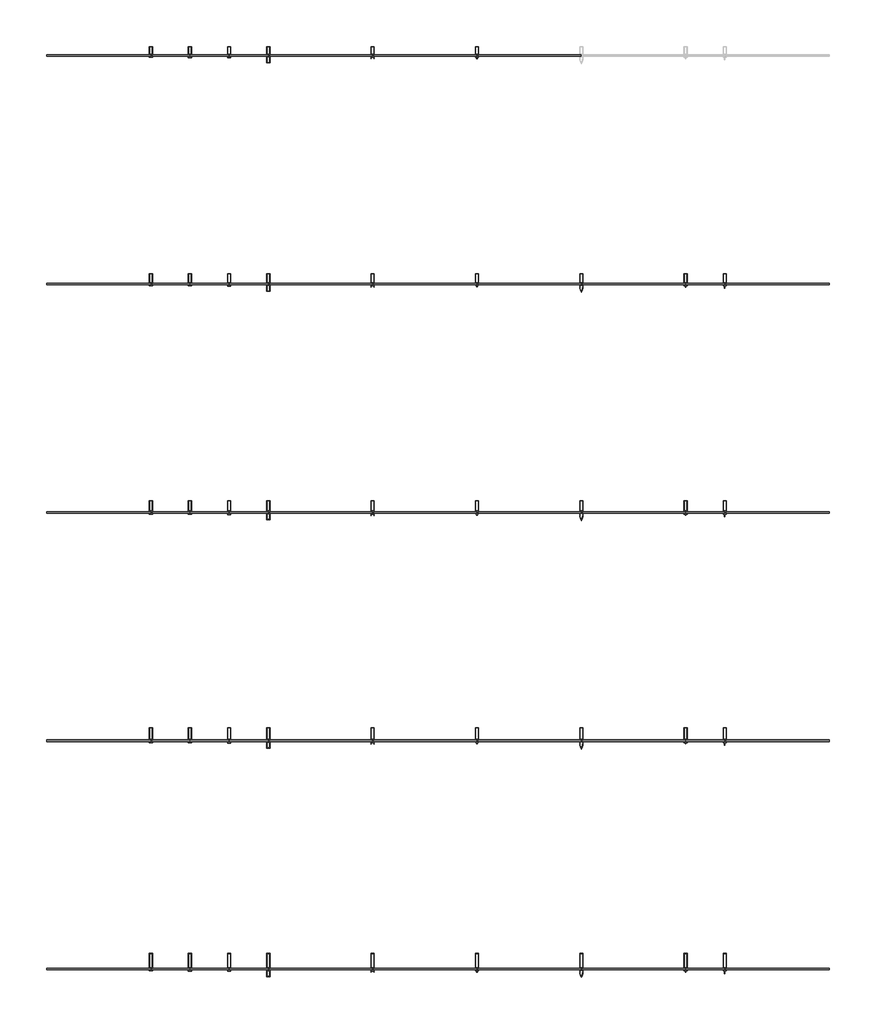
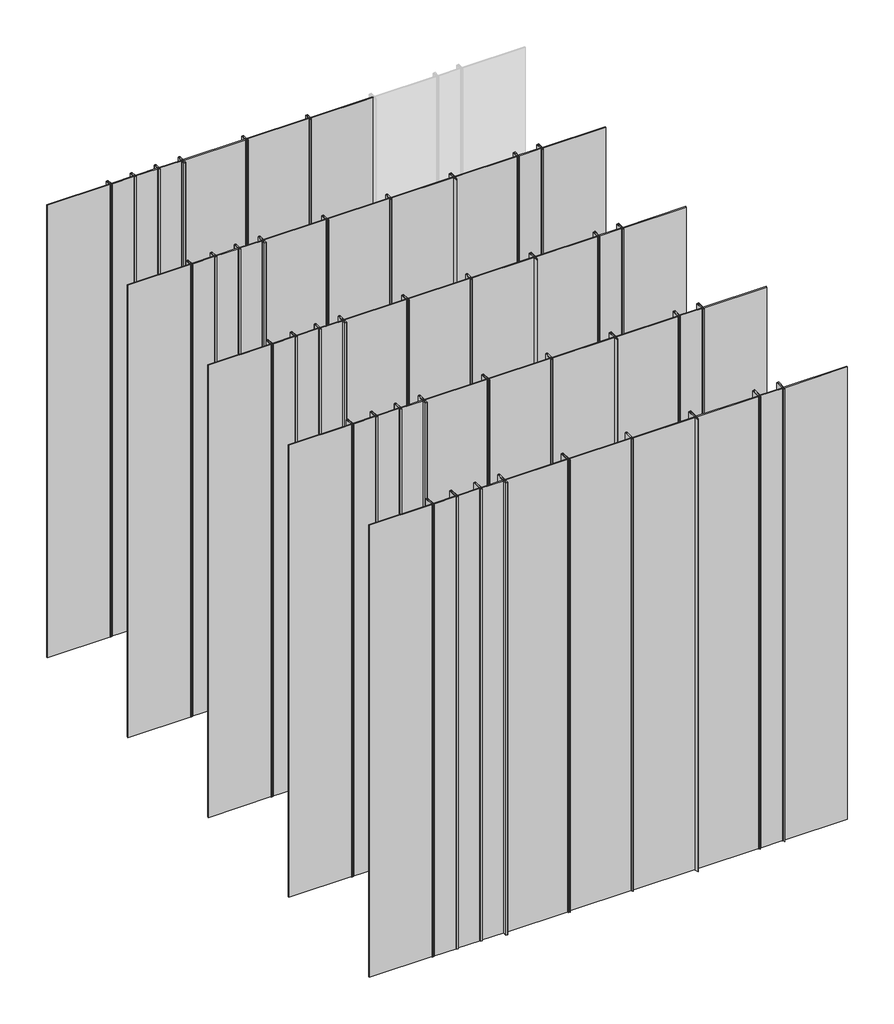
# One storey, part 1 of 3: 47 plates, 42 members.
"""IFC4 building model written with IfcOpenShell, lengths in millimetres."""

from ifc_helpers import new_model, si_unit, origin, place, context, project, spatial, transform, mapped, element, save
from components import rectangular_mullion_120c3908, rectangular_mullion_693bc9d2, rectangular_mullion_8fbd9535, rectangular_mullion_25a7c6fc, rectangular_mullion_629073e1, rectangular_mullion_d670cf64, rectangular_mullion_58ca4ded, rectangular_mullion_fb1c17d4, rectangular_mullion_f3bbb93a, rectangular_mullion_afd46f44, rectangular_mullion_7d98d56e, rectangular_mullion_0bbc5c10, rectangular_mullion_07f449a9, rectangular_mullion_7b71fafa, rectangular_mullion_cb093232, rectangular_mullion_c1439ce1, rectangular_mullion_d79525b9, rectangular_mullion_4c7a41ba, rectangular_mullion_d0dfcfd7, rectangular_mullion_525918dc, rectangular_mullion_4d24ccfb, rectangular_mullion_5bd67411, rectangular_mullion_9865d1ee, rectangular_mullion_e466530f, rectangular_mullion_0eb20de7, rectangular_mullion_bd02d50f, rectangular_mullion_65957ae0, rectangular_mullion_ba95baed, rectangular_mullion_c6a1e527, rectangular_mullion_80356d6c, rectangular_mullion_60d12d85, rectangular_mullion_952e1606, rectangular_mullion_2d673ba3, rectangular_mullion_68ce5020, rectangular_mullion_cac935a3, rectangular_mullion_5f609504, rectangular_mullion_1290e9c1, rectangular_mullion_a40413b4, rectangular_mullion_e9a00c45, rectangular_mullion_58120c59, rectangular_mullion_c298cf27, rectangular_mullion_6b586c06, system_panel_glazed_d93a0c65, system_panel_glazed_eeb16b76, system_panel_glazed_27cd61de, system_panel_glazed_01db162c

model = new_model("IFC4")

# Units and contexts
model_context = context("Model", 3, world=origin())
ifc_project = project(units=[si_unit("LENGTHUNIT", "METRE", prefix="MILLI")], contexts=[model_context])

# Site, building, storey
site = spatial("IfcSite", under=ifc_project)
building = spatial("IfcBuilding", under=site)
storey = spatial("IfcBuildingStorey", under=building, Name="REY 01 - Overview Mullions", Elevation=0.0)

# Members
placement = place(None, origin())
rectangular_mullion_shape = rectangular_mullion_120c3908(model_context)
element("IfcMember", 1, ObjectType="Rectangular Mullion : Reynaers_CW-50_Transom-Transom_125.5mm_Facecap-02A", at=placement, inside=storey, context=model_context, shape_type="MappedRepresentation", body=[
    mapped(rectangular_mullion_shape, transform((-14129.591144, -4600.3540011, 0.0), x_axis=(-1.0, 0.0, 0.0), y_axis=(0.0, 1.0, 0.0), z_axis=(0.0, 0.0, -1.0))),
])
rectangular_mullion_2_shape = rectangular_mullion_693bc9d2(model_context)
element("IfcMember", 2, ObjectType="Rectangular Mullion : Reynaers_CW-50_Transom-Transom_125.5mm_Facecap-02B", at=placement, inside=storey, context=model_context, shape_type="MappedRepresentation", body=[
    mapped(rectangular_mullion_2_shape, transform((-13529.591144, -4600.3540011, 0.0), x_axis=(-1.0, 0.0, 0.0), y_axis=(0.0, 1.0, 0.0), z_axis=(0.0, 0.0, -1.0))),
])
rectangular_mullion_3_shape = rectangular_mullion_8fbd9535(model_context)
element("IfcMember", 3, ObjectType="Rectangular Mullion : Reynaers_CW-50_Transom-Transom_125.5mm_Facecap-02C", at=placement, inside=storey, context=model_context, shape_type="MappedRepresentation", body=[
    mapped(rectangular_mullion_3_shape, transform((-12929.591144, -4600.3540011, 0.0), x_axis=(-1.0, 0.0, 0.0), y_axis=(0.0, 1.0, 0.0), z_axis=(0.0, 0.0, -1.0))),
])
rectangular_mullion_4_shape = rectangular_mullion_25a7c6fc(model_context)
element("IfcMember", 4, ObjectType="Rectangular Mullion : Reynaers_CW-50_Transom-Transom_125.5mm_Facecap-02D", at=placement, inside=storey, context=model_context, shape_type="MappedRepresentation", body=[
    mapped(rectangular_mullion_4_shape, transform((-12329.591144, -4600.3540011, 0.0), x_axis=(-1.0, 0.0, 0.0), y_axis=(0.0, 1.0, 0.0), z_axis=(0.0, 0.0, -1.0))),
])
rectangular_mullion_5_shape = rectangular_mullion_629073e1(model_context)
element("IfcMember", 5, ObjectType="Rectangular Mullion : Reynaers_CW-50_Transom-Transom_125.5mm_Facecap-03", at=placement, inside=storey, context=model_context, shape_type="MappedRepresentation", body=[
    mapped(rectangular_mullion_5_shape, transform((-10729.591144, -4600.3540011, 0.0), x_axis=(-1.0, 0.0, 0.0), y_axis=(0.0, 1.0, 0.0), z_axis=(0.0, 0.0, -1.0))),
])
rectangular_mullion_6_shape = rectangular_mullion_d670cf64(model_context)
element("IfcMember", 6, ObjectType="Rectangular Mullion : Reynaers_CW-50_Transom-Transom_Vertical_125.5mm_Facecap-04", at=placement, inside=storey, context=model_context, shape_type="MappedRepresentation", body=[
    mapped(rectangular_mullion_6_shape, transform((-9129.591144, -4600.3540011, 0.0), x_axis=(-1.0, 0.0, 0.0), y_axis=(0.0, 1.0, 0.0), z_axis=(0.0, 0.0, -1.0))),
])
rectangular_mullion_7_shape = rectangular_mullion_58ca4ded(model_context)
element("IfcMember", 7, ObjectType="Rectangular Mullion : Reynaers_CW-50_Transom-Transom_Vertical_146.5mm_Facecap-04", at=placement, inside=storey, context=model_context, shape_type="MappedRepresentation", body=[
    mapped(rectangular_mullion_7_shape, transform((-9129.591144, -8100.3540011, 0.0), x_axis=(-1.0, 0.0, 0.0), y_axis=(0.0, 1.0, 0.0), z_axis=(0.0, 0.0, -1.0))),
])
rectangular_mullion_8_shape = rectangular_mullion_fb1c17d4(model_context)
element("IfcMember", 8, ObjectType="Rectangular Mullion : Reynaers_CW-50_Transom-Transom_146.5mm_Facecap-02A", at=placement, inside=storey, context=model_context, shape_type="MappedRepresentation", body=[
    mapped(rectangular_mullion_8_shape, transform((-14129.591144, -8100.3540011, 0.0), x_axis=(-1.0, 0.0, 0.0), y_axis=(0.0, 1.0, 0.0), z_axis=(0.0, 0.0, -1.0))),
])
rectangular_mullion_9_shape = rectangular_mullion_f3bbb93a(model_context)
element("IfcMember", 9, ObjectType="Rectangular Mullion : Reynaers_CW-50_Transom-Transom_146.5mm_Facecap-02B", at=placement, inside=storey, context=model_context, shape_type="MappedRepresentation", body=[
    mapped(rectangular_mullion_9_shape, transform((-13529.591144, -8100.3540011, 0.0), x_axis=(-1.0, 0.0, 0.0), y_axis=(0.0, 1.0, 0.0), z_axis=(0.0, 0.0, -1.0))),
])
rectangular_mullion_10_shape = rectangular_mullion_afd46f44(model_context)
element("IfcMember", 10, ObjectType="Rectangular Mullion : Reynaers_CW-50_Transom-Transom_146.5mm_Facecap-02C", at=placement, inside=storey, context=model_context, shape_type="MappedRepresentation", body=[
    mapped(rectangular_mullion_10_shape, transform((-12929.591144, -8100.3540011, 0.0), x_axis=(-1.0, 0.0, 0.0), y_axis=(0.0, 1.0, 0.0), z_axis=(0.0, 0.0, -1.0))),
])
rectangular_mullion_11_shape = rectangular_mullion_7d98d56e(model_context)
element("IfcMember", 11, ObjectType="Rectangular Mullion : Reynaers_CW-50_Transom-Transom_146.5mm_Facecap-02D", at=placement, inside=storey, context=model_context, shape_type="MappedRepresentation", body=[
    mapped(rectangular_mullion_11_shape, transform((-12329.591144, -8100.3540011, 0.0), x_axis=(-1.0, 0.0, 0.0), y_axis=(0.0, 1.0, 0.0), z_axis=(0.0, 0.0, -1.0))),
])
rectangular_mullion_12_shape = rectangular_mullion_0bbc5c10(model_context)
element("IfcMember", 12, ObjectType="Rectangular Mullion : Reynaers_CW-50_Transom-Transom_146.5mm_Facecap-03", at=placement, inside=storey, context=model_context, shape_type="MappedRepresentation", body=[
    mapped(rectangular_mullion_12_shape, transform((-10729.591144, -8100.3540011, 0.0), x_axis=(-1.0, 0.0, 0.0), y_axis=(0.0, 1.0, 0.0), z_axis=(0.0, 0.0, -1.0))),
])
rectangular_mullion_13_shape = rectangular_mullion_07f449a9(model_context)
element("IfcMember", 13, ObjectType="Rectangular Mullion : Reynaers_CW-50_Transom-Transom_146.5mm_Facecap-05", at=placement, inside=storey, context=model_context, shape_type="MappedRepresentation", body=[
    mapped(rectangular_mullion_13_shape, transform((-7529.591144, -8100.3540011, 0.0), x_axis=(-1.0, 0.0, 0.0), y_axis=(0.0, 1.0, 0.0), z_axis=(0.0, 0.0, -1.0))),
])
rectangular_mullion_14_shape = rectangular_mullion_7b71fafa(model_context)
element("IfcMember", 14, ObjectType="Rectangular Mullion : Reynaers_CW-50_Transom-Transom_146.5mm_Facecap-06A", at=placement, inside=storey, context=model_context, shape_type="MappedRepresentation", body=[
    mapped(rectangular_mullion_14_shape, transform((-5929.591144, -8100.3540011, 0.0), x_axis=(-1.0, 0.0, 0.0), y_axis=(0.0, 1.0, 0.0), z_axis=(0.0, 0.0, -1.0))),
])
rectangular_mullion_15_shape = rectangular_mullion_cb093232(model_context)
element("IfcMember", 15, ObjectType="Rectangular Mullion : Reynaers_CW-50_Transom-Transom_146.5mm_Facecap-06B", at=placement, inside=storey, context=model_context, shape_type="MappedRepresentation", body=[
    mapped(rectangular_mullion_15_shape, transform((-5329.591144, -8100.3540011, 0.0), x_axis=(-1.0, 0.0, 0.0), y_axis=(0.0, 1.0, 0.0), z_axis=(0.0, 0.0, -1.0))),
])
rectangular_mullion_16_shape = rectangular_mullion_c1439ce1(model_context)
element("IfcMember", 16, ObjectType="Rectangular Mullion : Reynaers_CW-50_Transom-Transom_167.5mm_Facecap-02A", at=placement, inside=storey, context=model_context, shape_type="MappedRepresentation", body=[
    mapped(rectangular_mullion_16_shape, transform((-14129.591144, -11600.3540011, 0.0), x_axis=(-1.0, 0.0, 0.0), y_axis=(0.0, 1.0, 0.0), z_axis=(0.0, 0.0, -1.0))),
])
rectangular_mullion_17_shape = rectangular_mullion_d79525b9(model_context)
element("IfcMember", 17, ObjectType="Rectangular Mullion : Reynaers_CW-50_Transom-Transom_167.5mm_Facecap-02B", at=placement, inside=storey, context=model_context, shape_type="MappedRepresentation", body=[
    mapped(rectangular_mullion_17_shape, transform((-13529.591144, -11600.3540011, 0.0), x_axis=(-1.0, 0.0, 0.0), y_axis=(0.0, 1.0, 0.0), z_axis=(0.0, 0.0, -1.0))),
])
rectangular_mullion_18_shape = rectangular_mullion_4c7a41ba(model_context)
element("IfcMember", 18, ObjectType="Rectangular Mullion : Reynaers_CW-50_Transom-Transom_167.5mm_Facecap-02C", at=placement, inside=storey, context=model_context, shape_type="MappedRepresentation", body=[
    mapped(rectangular_mullion_18_shape, transform((-12929.591144, -11600.3540011, 0.0), x_axis=(-1.0, 0.0, 0.0), y_axis=(0.0, 1.0, 0.0), z_axis=(0.0, 0.0, -1.0))),
])
rectangular_mullion_19_shape = rectangular_mullion_d0dfcfd7(model_context)
element("IfcMember", 19, ObjectType="Rectangular Mullion : Reynaers_CW-50_Transom-Transom_167.5mm_Facecap-02D", at=placement, inside=storey, context=model_context, shape_type="MappedRepresentation", body=[
    mapped(rectangular_mullion_19_shape, transform((-12329.591144, -11600.3540011, 0.0), x_axis=(-1.0, 0.0, 0.0), y_axis=(0.0, 1.0, 0.0), z_axis=(0.0, 0.0, -1.0))),
])
rectangular_mullion_20_shape = rectangular_mullion_525918dc(model_context)
element("IfcMember", 20, ObjectType="Rectangular Mullion : Reynaers_CW-50_Transom-Transom_167.5mm_Facecap-03", at=placement, inside=storey, context=model_context, shape_type="MappedRepresentation", body=[
    mapped(rectangular_mullion_20_shape, transform((-10729.591144, -11600.3540011, 0.0), x_axis=(-1.0, 0.0, 0.0), y_axis=(0.0, 1.0, 0.0), z_axis=(0.0, 0.0, -1.0))),
])
rectangular_mullion_21_shape = rectangular_mullion_4d24ccfb(model_context)
element("IfcMember", 21, ObjectType="Rectangular Mullion : Reynaers_CW-50_Transom-Transom_167.5mm_Facecap-05", at=placement, inside=storey, context=model_context, shape_type="MappedRepresentation", body=[
    mapped(rectangular_mullion_21_shape, transform((-7529.591144, -11600.3540011, 0.0), x_axis=(-1.0, 0.0, 0.0), y_axis=(0.0, 1.0, 0.0), z_axis=(0.0, 0.0, -1.0))),
])
rectangular_mullion_22_shape = rectangular_mullion_5bd67411(model_context)
element("IfcMember", 22, ObjectType="Rectangular Mullion : Reynaers_CW-50_Transom-Transom_167.5mm_Facecap-06A", at=placement, inside=storey, context=model_context, shape_type="MappedRepresentation", body=[
    mapped(rectangular_mullion_22_shape, transform((-5929.591144, -11600.3540011, 0.0), x_axis=(-1.0, 0.0, 0.0), y_axis=(0.0, 1.0, 0.0), z_axis=(0.0, 0.0, -1.0))),
])
rectangular_mullion_23_shape = rectangular_mullion_9865d1ee(model_context)
element("IfcMember", 23, ObjectType="Rectangular Mullion : Reynaers_CW-50_Transom-Transom_167.5mm_Facecap-06B", at=placement, inside=storey, context=model_context, shape_type="MappedRepresentation", body=[
    mapped(rectangular_mullion_23_shape, transform((-5329.591144, -11600.3540011, 0.0), x_axis=(-1.0, 0.0, 0.0), y_axis=(0.0, 1.0, 0.0), z_axis=(0.0, 0.0, -1.0))),
])
rectangular_mullion_24_shape = rectangular_mullion_e466530f(model_context)
element("IfcMember", 24, ObjectType="Rectangular Mullion : Reynaers_CW-50_Transom-Transom_Vertical_167.5mm_Facecap-04", at=placement, inside=storey, context=model_context, shape_type="MappedRepresentation", body=[
    mapped(rectangular_mullion_24_shape, transform((-9129.591144, -11600.3540011, 0.0), x_axis=(-1.0, 0.0, 0.0), y_axis=(0.0, 1.0, 0.0), z_axis=(0.0, 0.0, -1.0))),
])
rectangular_mullion_25_shape = rectangular_mullion_0eb20de7(model_context)
element("IfcMember", 25, ObjectType="Rectangular Mullion : Reynaers_CW-50_Transom-Transom_Vertical_188.5mm_Facecap-04", at=placement, inside=storey, context=model_context, shape_type="MappedRepresentation", body=[
    mapped(rectangular_mullion_25_shape, transform((-9129.591144, -15100.3540011, 0.0), x_axis=(-1.0, 0.0, 0.0), y_axis=(0.0, 1.0, 0.0), z_axis=(0.0, 0.0, -1.0))),
])
rectangular_mullion_26_shape = rectangular_mullion_bd02d50f(model_context)
element("IfcMember", 26, ObjectType="Rectangular Mullion : Reynaers_CW-50_Transom-Transom_188.5mm_Facecap-02A", at=placement, inside=storey, context=model_context, shape_type="MappedRepresentation", body=[
    mapped(rectangular_mullion_26_shape, transform((-14129.591144, -15100.3540011, 0.0), x_axis=(-1.0, 0.0, 0.0), y_axis=(0.0, 1.0, 0.0), z_axis=(0.0, 0.0, -1.0))),
])
rectangular_mullion_27_shape = rectangular_mullion_65957ae0(model_context)
element("IfcMember", 27, ObjectType="Rectangular Mullion : Reynaers_CW-50_Transom-Transom_188.5mm_Facecap-02B", at=placement, inside=storey, context=model_context, shape_type="MappedRepresentation", body=[
    mapped(rectangular_mullion_27_shape, transform((-13529.591144, -15100.3540011, 0.0), x_axis=(-1.0, 0.0, 0.0), y_axis=(0.0, 1.0, 0.0), z_axis=(0.0, 0.0, -1.0))),
])
rectangular_mullion_28_shape = rectangular_mullion_ba95baed(model_context)
element("IfcMember", 28, ObjectType="Rectangular Mullion : Reynaers_CW-50_Transom-Transom_188.5mm_Facecap-02C", at=placement, inside=storey, context=model_context, shape_type="MappedRepresentation", body=[
    mapped(rectangular_mullion_28_shape, transform((-12929.591144, -15100.3540011, 0.0), x_axis=(-1.0, 0.0, 0.0), y_axis=(0.0, 1.0, 0.0), z_axis=(0.0, 0.0, -1.0))),
])
rectangular_mullion_29_shape = rectangular_mullion_c6a1e527(model_context)
element("IfcMember", 29, ObjectType="Rectangular Mullion : Reynaers_CW-50_Transom-Transom_188.5mm_Facecap-02D", at=placement, inside=storey, context=model_context, shape_type="MappedRepresentation", body=[
    mapped(rectangular_mullion_29_shape, transform((-12329.591144, -15100.3540011, 0.0), x_axis=(-1.0, 0.0, 0.0), y_axis=(0.0, 1.0, 0.0), z_axis=(0.0, 0.0, -1.0))),
])
rectangular_mullion_30_shape = rectangular_mullion_80356d6c(model_context)
element("IfcMember", 30, ObjectType="Rectangular Mullion : Reynaers_CW-50_Transom-Transom_188.5mm_Facecap-03", at=placement, inside=storey, context=model_context, shape_type="MappedRepresentation", body=[
    mapped(rectangular_mullion_30_shape, transform((-10729.591144, -15100.3540011, 0.0), x_axis=(-1.0, 0.0, 0.0), y_axis=(0.0, 1.0, 0.0), z_axis=(0.0, 0.0, -1.0))),
])
rectangular_mullion_31_shape = rectangular_mullion_60d12d85(model_context)
element("IfcMember", 31, ObjectType="Rectangular Mullion : Reynaers_CW-50_Transom-Transom_188.5mm_Facecap-05", at=placement, inside=storey, context=model_context, shape_type="MappedRepresentation", body=[
    mapped(rectangular_mullion_31_shape, transform((-7529.591144, -15100.3540011, 0.0), x_axis=(-1.0, 0.0, 0.0), y_axis=(0.0, 1.0, 0.0), z_axis=(0.0, 0.0, -1.0))),
])
rectangular_mullion_32_shape = rectangular_mullion_952e1606(model_context)
element("IfcMember", 32, ObjectType="Rectangular Mullion : Reynaers_CW-50_Transom-Transom_188.5mm_Facecap-06A", at=placement, inside=storey, context=model_context, shape_type="MappedRepresentation", body=[
    mapped(rectangular_mullion_32_shape, transform((-5929.591144, -15100.3540011, 0.0), x_axis=(-1.0, 0.0, 0.0), y_axis=(0.0, 1.0, 0.0), z_axis=(0.0, 0.0, -1.0))),
])
rectangular_mullion_33_shape = rectangular_mullion_2d673ba3(model_context)
element("IfcMember", 33, ObjectType="Rectangular Mullion : Reynaers_CW-50_Transom-Transom_188.5mm_Facecap-06B", at=placement, inside=storey, context=model_context, shape_type="MappedRepresentation", body=[
    mapped(rectangular_mullion_33_shape, transform((-5329.591144, -15100.3540011, 0.0), x_axis=(-1.0, 0.0, 0.0), y_axis=(0.0, 1.0, 0.0), z_axis=(0.0, 0.0, -1.0))),
])
rectangular_mullion_34_shape = rectangular_mullion_68ce5020(model_context)
element("IfcMember", 34, ObjectType="Rectangular Mullion : Reynaers_CW-50_Transom-Transom_230.5mm_Facecap-02A", at=placement, inside=storey, context=model_context, shape_type="MappedRepresentation", body=[
    mapped(rectangular_mullion_34_shape, transform((-14129.591144, -18600.3540011, 0.0), x_axis=(-1.0, 0.0, 0.0), y_axis=(0.0, 1.0, 0.0), z_axis=(0.0, 0.0, -1.0))),
])
rectangular_mullion_35_shape = rectangular_mullion_cac935a3(model_context)
element("IfcMember", 35, ObjectType="Rectangular Mullion : Reynaers_CW-50_Transom-Transom_230.5mm_Facecap-02B", at=placement, inside=storey, context=model_context, shape_type="MappedRepresentation", body=[
    mapped(rectangular_mullion_35_shape, transform((-13529.591144, -18600.3540011, 0.0), x_axis=(-1.0, 0.0, 0.0), y_axis=(0.0, 1.0, 0.0), z_axis=(0.0, 0.0, -1.0))),
])
rectangular_mullion_36_shape = rectangular_mullion_5f609504(model_context)
element("IfcMember", 36, ObjectType="Rectangular Mullion : Reynaers_CW-50_Transom-Transom_230.5mm_Facecap-02C", at=placement, inside=storey, context=model_context, shape_type="MappedRepresentation", body=[
    mapped(rectangular_mullion_36_shape, transform((-12929.591144, -18600.3540011, 0.0), x_axis=(-1.0, 0.0, 0.0), y_axis=(0.0, 1.0, 0.0), z_axis=(0.0, 0.0, -1.0))),
])
rectangular_mullion_37_shape = rectangular_mullion_1290e9c1(model_context)
element("IfcMember", 37, ObjectType="Rectangular Mullion : Reynaers_CW-50_Transom-Transom_230.5mm_Facecap-02D", at=placement, inside=storey, context=model_context, shape_type="MappedRepresentation", body=[
    mapped(rectangular_mullion_37_shape, transform((-12329.591144, -18600.3540011, 0.0), x_axis=(-1.0, 0.0, 0.0), y_axis=(0.0, 1.0, 0.0), z_axis=(0.0, 0.0, -1.0))),
])
rectangular_mullion_38_shape = rectangular_mullion_a40413b4(model_context)
element("IfcMember", 38, ObjectType="Rectangular Mullion : Reynaers_CW-50_Transom-Transom_230.5mm_Facecap-03", at=placement, inside=storey, context=model_context, shape_type="MappedRepresentation", body=[
    mapped(rectangular_mullion_38_shape, transform((-10729.591144, -18600.3540011, 0.0), x_axis=(-1.0, 0.0, 0.0), y_axis=(0.0, 1.0, 0.0), z_axis=(0.0, 0.0, -1.0))),
])
rectangular_mullion_39_shape = rectangular_mullion_e9a00c45(model_context)
element("IfcMember", 39, ObjectType="Rectangular Mullion : Reynaers_CW-50_Transom-Transom_230.5mm_Facecap-05", at=placement, inside=storey, context=model_context, shape_type="MappedRepresentation", body=[
    mapped(rectangular_mullion_39_shape, transform((-7529.591144, -18600.3540011, 0.0), x_axis=(-1.0, 0.0, 0.0), y_axis=(0.0, 1.0, 0.0), z_axis=(0.0, 0.0, -1.0))),
])
rectangular_mullion_40_shape = rectangular_mullion_58120c59(model_context)
element("IfcMember", 40, ObjectType="Rectangular Mullion : Reynaers_CW-50_Transom-Transom_230.5mm_Facecap-06A", at=placement, inside=storey, context=model_context, shape_type="MappedRepresentation", body=[
    mapped(rectangular_mullion_40_shape, transform((-5929.591144, -18600.3540011, 0.0), x_axis=(-1.0, 0.0, 0.0), y_axis=(0.0, 1.0, 0.0), z_axis=(0.0, 0.0, -1.0))),
])
rectangular_mullion_41_shape = rectangular_mullion_c298cf27(model_context)
element("IfcMember", 41, ObjectType="Rectangular Mullion : Reynaers_CW-50_Transom-Transom_230.5mm_Facecap-06B", at=placement, inside=storey, context=model_context, shape_type="MappedRepresentation", body=[
    mapped(rectangular_mullion_41_shape, transform((-5329.591144, -18600.3540011, 0.0), x_axis=(-1.0, 0.0, 0.0), y_axis=(0.0, 1.0, 0.0), z_axis=(0.0, 0.0, -1.0))),
])
rectangular_mullion_42_shape = rectangular_mullion_6b586c06(model_context)
element("IfcMember", 42, ObjectType="Rectangular Mullion : Reynaers_CW-50_Transom-Transom_Vertical_230.5mm_Facecap-04", at=placement, inside=storey, context=model_context, shape_type="MappedRepresentation", body=[
    mapped(rectangular_mullion_42_shape, transform((-9129.591144, -18600.3540011, 0.0), x_axis=(-1.0, 0.0, 0.0), y_axis=(0.0, 1.0, 0.0), z_axis=(0.0, 0.0, -1.0))),
])

# Plates
system_panel_glazed_shape = system_panel_glazed_d93a0c65(model_context)
element("IfcPlate", 43, ObjectType="System Panel : Glazed", at=placement, inside=storey, context=model_context, shape_type="MappedRepresentation", body=[
    mapped(system_panel_glazed_shape, transform((-4527.140941, -8100.3540011, 0.0), x_axis=(-1.0, 0.0, 0.0), y_axis=(0.0, -1.0, 0.0), z_axis=(0.0, 0.0, 1.0))),
])
element("IfcPlate", 44, ObjectType="System Panel : Glazed", at=placement, inside=storey, context=model_context, shape_type="MappedRepresentation", body=[
    mapped(system_panel_glazed_shape, transform((-4527.140941, -11600.3540011, 0.0), x_axis=(-1.0, 0.0, 0.0), y_axis=(0.0, -1.0, 0.0), z_axis=(0.0, 0.0, 1.0))),
])
element("IfcPlate", 45, ObjectType="System Panel : Glazed", at=placement, inside=storey, context=model_context, shape_type="MappedRepresentation", body=[
    mapped(system_panel_glazed_shape, transform((-4527.140941, -15100.3540011, 0.0), x_axis=(-1.0, 0.0, 0.0), y_axis=(0.0, -1.0, 0.0), z_axis=(0.0, 0.0, 1.0))),
])
element("IfcPlate", 46, ObjectType="System Panel : Glazed", at=placement, inside=storey, context=model_context, shape_type="MappedRepresentation", body=[
    mapped(system_panel_glazed_shape, transform((-4527.140941, -18600.3540011, 0.0), x_axis=(-1.0, 0.0, 0.0), y_axis=(0.0, -1.0, 0.0), z_axis=(0.0, 0.0, 1.0))),
])
system_panel_glazed_2_shape = system_panel_glazed_eeb16b76(model_context)
element("IfcPlate", 47, ObjectType="System Panel : Glazed", at=placement, inside=storey, context=model_context, shape_type="MappedRepresentation", body=[
    mapped(system_panel_glazed_2_shape, transform((-14932.240941, -4600.3540011, 0.0), x_axis=(-1.0, 0.0, 0.0), y_axis=(0.0, -1.0, 0.0), z_axis=(0.0, 0.0, 1.0))),
])
element("IfcPlate", 48, ObjectType="System Panel : Glazed", at=placement, inside=storey, context=model_context, shape_type="MappedRepresentation", body=[
    mapped(system_panel_glazed_2_shape, transform((-14932.240941, -8100.3540011, 0.0), x_axis=(-1.0, 0.0, 0.0), y_axis=(0.0, -1.0, 0.0), z_axis=(0.0, 0.0, 1.0))),
])
element("IfcPlate", 49, ObjectType="System Panel : Glazed", at=placement, inside=storey, context=model_context, shape_type="MappedRepresentation", body=[
    mapped(system_panel_glazed_2_shape, transform((-14932.240941, -11600.3540011, 0.0), x_axis=(-1.0, 0.0, 0.0), y_axis=(0.0, -1.0, 0.0), z_axis=(0.0, 0.0, 1.0))),
])
element("IfcPlate", 50, ObjectType="System Panel : Glazed", at=placement, inside=storey, context=model_context, shape_type="MappedRepresentation", body=[
    mapped(system_panel_glazed_2_shape, transform((-14932.240941, -15100.3540011, 0.0), x_axis=(-1.0, 0.0, 0.0), y_axis=(0.0, -1.0, 0.0), z_axis=(0.0, 0.0, 1.0))),
])
element("IfcPlate", 51, ObjectType="System Panel : Glazed", at=placement, inside=storey, context=model_context, shape_type="MappedRepresentation", body=[
    mapped(system_panel_glazed_2_shape, transform((-14932.240941, -18600.3540011, 0.0), x_axis=(-1.0, 0.0, 0.0), y_axis=(0.0, -1.0, 0.0), z_axis=(0.0, 0.0, 1.0))),
])
system_panel_glazed_3_shape = system_panel_glazed_27cd61de(model_context)
element("IfcPlate", 52, ObjectType="System Panel : Glazed", at=placement, inside=storey, context=model_context, shape_type="MappedRepresentation", body=[
    mapped(system_panel_glazed_3_shape, transform((-13829.7907381, -4600.3540011, 0.0), x_axis=(-1.0, 0.0, 0.0), y_axis=(0.0, -1.0, 0.0), z_axis=(0.0, 0.0, 1.0))),
])
element("IfcPlate", 53, ObjectType="System Panel : Glazed", at=placement, inside=storey, context=model_context, shape_type="MappedRepresentation", body=[
    mapped(system_panel_glazed_3_shape, transform((-13229.7907381, -4600.3540011, 0.0), x_axis=(-1.0, 0.0, 0.0), y_axis=(0.0, -1.0, 0.0), z_axis=(0.0, 0.0, 1.0))),
])
element("IfcPlate", 54, ObjectType="System Panel : Glazed", at=placement, inside=storey, context=model_context, shape_type="MappedRepresentation", body=[
    mapped(system_panel_glazed_3_shape, transform((-12629.7907381, -4600.3540011, 0.0), x_axis=(-1.0, 0.0, 0.0), y_axis=(0.0, -1.0, 0.0), z_axis=(0.0, 0.0, 1.0))),
])
element("IfcPlate", 55, ObjectType="System Panel : Glazed", at=placement, inside=storey, context=model_context, shape_type="MappedRepresentation", body=[
    mapped(system_panel_glazed_3_shape, transform((-5629.7907381, -8100.3540011, 0.0), x_axis=(-1.0, 0.0, 0.0), y_axis=(0.0, -1.0, 0.0), z_axis=(0.0, 0.0, 1.0))),
])
element("IfcPlate", 56, ObjectType="System Panel : Glazed", at=placement, inside=storey, context=model_context, shape_type="MappedRepresentation", body=[
    mapped(system_panel_glazed_3_shape, transform((-13829.7907381, -8100.3540011, 0.0), x_axis=(-1.0, 0.0, 0.0), y_axis=(0.0, -1.0, 0.0), z_axis=(0.0, 0.0, 1.0))),
])
element("IfcPlate", 57, ObjectType="System Panel : Glazed", at=placement, inside=storey, context=model_context, shape_type="MappedRepresentation", body=[
    mapped(system_panel_glazed_3_shape, transform((-13229.7907381, -8100.3540011, 0.0), x_axis=(-1.0, 0.0, 0.0), y_axis=(0.0, -1.0, 0.0), z_axis=(0.0, 0.0, 1.0))),
])
element("IfcPlate", 58, ObjectType="System Panel : Glazed", at=placement, inside=storey, context=model_context, shape_type="MappedRepresentation", body=[
    mapped(system_panel_glazed_3_shape, transform((-12629.7907381, -8100.3540011, 0.0), x_axis=(-1.0, 0.0, 0.0), y_axis=(0.0, -1.0, 0.0), z_axis=(0.0, 0.0, 1.0))),
])
element("IfcPlate", 59, ObjectType="System Panel : Glazed", at=placement, inside=storey, context=model_context, shape_type="MappedRepresentation", body=[
    mapped(system_panel_glazed_3_shape, transform((-5629.7907381, -11600.3540011, 0.0), x_axis=(-1.0, 0.0, 0.0), y_axis=(0.0, -1.0, 0.0), z_axis=(0.0, 0.0, 1.0))),
])
element("IfcPlate", 60, ObjectType="System Panel : Glazed", at=placement, inside=storey, context=model_context, shape_type="MappedRepresentation", body=[
    mapped(system_panel_glazed_3_shape, transform((-13829.7907381, -11600.3540011, 0.0), x_axis=(-1.0, 0.0, 0.0), y_axis=(0.0, -1.0, 0.0), z_axis=(0.0, 0.0, 1.0))),
])
element("IfcPlate", 61, ObjectType="System Panel : Glazed", at=placement, inside=storey, context=model_context, shape_type="MappedRepresentation", body=[
    mapped(system_panel_glazed_3_shape, transform((-13229.7907381, -11600.3540011, 0.0), x_axis=(-1.0, 0.0, 0.0), y_axis=(0.0, -1.0, 0.0), z_axis=(0.0, 0.0, 1.0))),
])
element("IfcPlate", 62, ObjectType="System Panel : Glazed", at=placement, inside=storey, context=model_context, shape_type="MappedRepresentation", body=[
    mapped(system_panel_glazed_3_shape, transform((-12629.7907381, -11600.3540011, 0.0), x_axis=(-1.0, 0.0, 0.0), y_axis=(0.0, -1.0, 0.0), z_axis=(0.0, 0.0, 1.0))),
])
element("IfcPlate", 63, ObjectType="System Panel : Glazed", at=placement, inside=storey, context=model_context, shape_type="MappedRepresentation", body=[
    mapped(system_panel_glazed_3_shape, transform((-5629.7907381, -15100.3540011, 0.0), x_axis=(-1.0, 0.0, 0.0), y_axis=(0.0, -1.0, 0.0), z_axis=(0.0, 0.0, 1.0))),
])
element("IfcPlate", 64, ObjectType="System Panel : Glazed", at=placement, inside=storey, context=model_context, shape_type="MappedRepresentation", body=[
    mapped(system_panel_glazed_3_shape, transform((-13829.7907381, -15100.3540011, 0.0), x_axis=(-1.0, 0.0, 0.0), y_axis=(0.0, -1.0, 0.0), z_axis=(0.0, 0.0, 1.0))),
])
element("IfcPlate", 65, ObjectType="System Panel : Glazed", at=placement, inside=storey, context=model_context, shape_type="MappedRepresentation", body=[
    mapped(system_panel_glazed_3_shape, transform((-13229.7907381, -15100.3540011, 0.0), x_axis=(-1.0, 0.0, 0.0), y_axis=(0.0, -1.0, 0.0), z_axis=(0.0, 0.0, 1.0))),
])
element("IfcPlate", 66, ObjectType="System Panel : Glazed", at=placement, inside=storey, context=model_context, shape_type="MappedRepresentation", body=[
    mapped(system_panel_glazed_3_shape, transform((-12629.7907381, -15100.3540011, 0.0), x_axis=(-1.0, 0.0, 0.0), y_axis=(0.0, -1.0, 0.0), z_axis=(0.0, 0.0, 1.0))),
])
element("IfcPlate", 67, ObjectType="System Panel : Glazed", at=placement, inside=storey, context=model_context, shape_type="MappedRepresentation", body=[
    mapped(system_panel_glazed_3_shape, transform((-5629.7907381, -18600.3540011, 0.0), x_axis=(-1.0, 0.0, 0.0), y_axis=(0.0, -1.0, 0.0), z_axis=(0.0, 0.0, 1.0))),
])
element("IfcPlate", 68, ObjectType="System Panel : Glazed", at=placement, inside=storey, context=model_context, shape_type="MappedRepresentation", body=[
    mapped(system_panel_glazed_3_shape, transform((-13829.7907381, -18600.3540011, 0.0), x_axis=(-1.0, 0.0, 0.0), y_axis=(0.0, -1.0, 0.0), z_axis=(0.0, 0.0, 1.0))),
])
element("IfcPlate", 69, ObjectType="System Panel : Glazed", at=placement, inside=storey, context=model_context, shape_type="MappedRepresentation", body=[
    mapped(system_panel_glazed_3_shape, transform((-13229.7907381, -18600.3540011, 0.0), x_axis=(-1.0, 0.0, 0.0), y_axis=(0.0, -1.0, 0.0), z_axis=(0.0, 0.0, 1.0))),
])
element("IfcPlate", 70, ObjectType="System Panel : Glazed", at=placement, inside=storey, context=model_context, shape_type="MappedRepresentation", body=[
    mapped(system_panel_glazed_3_shape, transform((-12629.7907381, -18600.3540011, 0.0), x_axis=(-1.0, 0.0, 0.0), y_axis=(0.0, -1.0, 0.0), z_axis=(0.0, 0.0, 1.0))),
])
system_panel_glazed_4_shape = system_panel_glazed_01db162c(model_context)
element("IfcPlate", 71, ObjectType="System Panel : Glazed", at=placement, inside=storey, context=model_context, shape_type="MappedRepresentation", body=[
    mapped(system_panel_glazed_4_shape, transform((-8329.7907381, -4600.3540011, 0.0), x_axis=(-1.0, 0.0, 0.0), y_axis=(0.0, -1.0, 0.0), z_axis=(0.0, 0.0, 1.0))),
])
element("IfcPlate", 72, ObjectType="System Panel : Glazed", at=placement, inside=storey, context=model_context, shape_type="MappedRepresentation", body=[
    mapped(system_panel_glazed_4_shape, transform((-9929.7907381, -4600.3540011, 0.0), x_axis=(-1.0, 0.0, 0.0), y_axis=(0.0, -1.0, 0.0), z_axis=(0.0, 0.0, 1.0))),
])
element("IfcPlate", 73, ObjectType="System Panel : Glazed", at=placement, inside=storey, context=model_context, shape_type="MappedRepresentation", body=[
    mapped(system_panel_glazed_4_shape, transform((-11529.7907381, -4600.3540011, 0.0), x_axis=(-1.0, 0.0, 0.0), y_axis=(0.0, -1.0, 0.0), z_axis=(0.0, 0.0, 1.0))),
])
element("IfcPlate", 74, ObjectType="System Panel : Glazed", at=placement, inside=storey, context=model_context, shape_type="MappedRepresentation", body=[
    mapped(system_panel_glazed_4_shape, transform((-6729.7907381, -8100.3540011, 0.0), x_axis=(-1.0, 0.0, 0.0), y_axis=(0.0, -1.0, 0.0), z_axis=(0.0, 0.0, 1.0))),
])
element("IfcPlate", 75, ObjectType="System Panel : Glazed", at=placement, inside=storey, context=model_context, shape_type="MappedRepresentation", body=[
    mapped(system_panel_glazed_4_shape, transform((-8329.7907381, -8100.3540011, 0.0), x_axis=(-1.0, 0.0, 0.0), y_axis=(0.0, -1.0, 0.0), z_axis=(0.0, 0.0, 1.0))),
])
element("IfcPlate", 76, ObjectType="System Panel : Glazed", at=placement, inside=storey, context=model_context, shape_type="MappedRepresentation", body=[
    mapped(system_panel_glazed_4_shape, transform((-9929.7907381, -8100.3540011, 0.0), x_axis=(-1.0, 0.0, 0.0), y_axis=(0.0, -1.0, 0.0), z_axis=(0.0, 0.0, 1.0))),
])
element("IfcPlate", 77, ObjectType="System Panel : Glazed", at=placement, inside=storey, context=model_context, shape_type="MappedRepresentation", body=[
    mapped(system_panel_glazed_4_shape, transform((-11529.7907381, -8100.3540011, 0.0), x_axis=(-1.0, 0.0, 0.0), y_axis=(0.0, -1.0, 0.0), z_axis=(0.0, 0.0, 1.0))),
])
element("IfcPlate", 78, ObjectType="System Panel : Glazed", at=placement, inside=storey, context=model_context, shape_type="MappedRepresentation", body=[
    mapped(system_panel_glazed_4_shape, transform((-6729.7907381, -11600.3540011, 0.0), x_axis=(-1.0, 0.0, 0.0), y_axis=(0.0, -1.0, 0.0), z_axis=(0.0, 0.0, 1.0))),
])
element("IfcPlate", 79, ObjectType="System Panel : Glazed", at=placement, inside=storey, context=model_context, shape_type="MappedRepresentation", body=[
    mapped(system_panel_glazed_4_shape, transform((-8329.7907381, -11600.3540011, 0.0), x_axis=(-1.0, 0.0, 0.0), y_axis=(0.0, -1.0, 0.0), z_axis=(0.0, 0.0, 1.0))),
])
element("IfcPlate", 80, ObjectType="System Panel : Glazed", at=placement, inside=storey, context=model_context, shape_type="MappedRepresentation", body=[
    mapped(system_panel_glazed_4_shape, transform((-9929.7907381, -11600.3540011, 0.0), x_axis=(-1.0, 0.0, 0.0), y_axis=(0.0, -1.0, 0.0), z_axis=(0.0, 0.0, 1.0))),
])
element("IfcPlate", 81, ObjectType="System Panel : Glazed", at=placement, inside=storey, context=model_context, shape_type="MappedRepresentation", body=[
    mapped(system_panel_glazed_4_shape, transform((-11529.7907381, -11600.3540011, 0.0), x_axis=(-1.0, 0.0, 0.0), y_axis=(0.0, -1.0, 0.0), z_axis=(0.0, 0.0, 1.0))),
])
element("IfcPlate", 82, ObjectType="System Panel : Glazed", at=placement, inside=storey, context=model_context, shape_type="MappedRepresentation", body=[
    mapped(system_panel_glazed_4_shape, transform((-6729.7907381, -15100.3540011, 0.0), x_axis=(-1.0, 0.0, 0.0), y_axis=(0.0, -1.0, 0.0), z_axis=(0.0, 0.0, 1.0))),
])
element("IfcPlate", 83, ObjectType="System Panel : Glazed", at=placement, inside=storey, context=model_context, shape_type="MappedRepresentation", body=[
    mapped(system_panel_glazed_4_shape, transform((-8329.7907381, -15100.3540011, 0.0), x_axis=(-1.0, 0.0, 0.0), y_axis=(0.0, -1.0, 0.0), z_axis=(0.0, 0.0, 1.0))),
])
element("IfcPlate", 84, ObjectType="System Panel : Glazed", at=placement, inside=storey, context=model_context, shape_type="MappedRepresentation", body=[
    mapped(system_panel_glazed_4_shape, transform((-9929.7907381, -15100.3540011, 0.0), x_axis=(-1.0, 0.0, 0.0), y_axis=(0.0, -1.0, 0.0), z_axis=(0.0, 0.0, 1.0))),
])
element("IfcPlate", 85, ObjectType="System Panel : Glazed", at=placement, inside=storey, context=model_context, shape_type="MappedRepresentation", body=[
    mapped(system_panel_glazed_4_shape, transform((-11529.7907381, -15100.3540011, 0.0), x_axis=(-1.0, 0.0, 0.0), y_axis=(0.0, -1.0, 0.0), z_axis=(0.0, 0.0, 1.0))),
])
element("IfcPlate", 86, ObjectType="System Panel : Glazed", at=placement, inside=storey, context=model_context, shape_type="MappedRepresentation", body=[
    mapped(system_panel_glazed_4_shape, transform((-6729.7907381, -18600.3540011, 0.0), x_axis=(-1.0, 0.0, 0.0), y_axis=(0.0, -1.0, 0.0), z_axis=(0.0, 0.0, 1.0))),
])
element("IfcPlate", 87, ObjectType="System Panel : Glazed", at=placement, inside=storey, context=model_context, shape_type="MappedRepresentation", body=[
    mapped(system_panel_glazed_4_shape, transform((-8329.7907381, -18600.3540011, 0.0), x_axis=(-1.0, 0.0, 0.0), y_axis=(0.0, -1.0, 0.0), z_axis=(0.0, 0.0, 1.0))),
])
element("IfcPlate", 88, ObjectType="System Panel : Glazed", at=placement, inside=storey, context=model_context, shape_type="MappedRepresentation", body=[
    mapped(system_panel_glazed_4_shape, transform((-9929.7907381, -18600.3540011, 0.0), x_axis=(-1.0, 0.0, 0.0), y_axis=(0.0, -1.0, 0.0), z_axis=(0.0, 0.0, 1.0))),
])
element("IfcPlate", 89, ObjectType="System Panel : Glazed", at=placement, inside=storey, context=model_context, shape_type="MappedRepresentation", body=[
    mapped(system_panel_glazed_4_shape, transform((-11529.7907381, -18600.3540011, 0.0), x_axis=(-1.0, 0.0, 0.0), y_axis=(0.0, -1.0, 0.0), z_axis=(0.0, 0.0, 1.0))),
])

save(model, "model.ifc")
